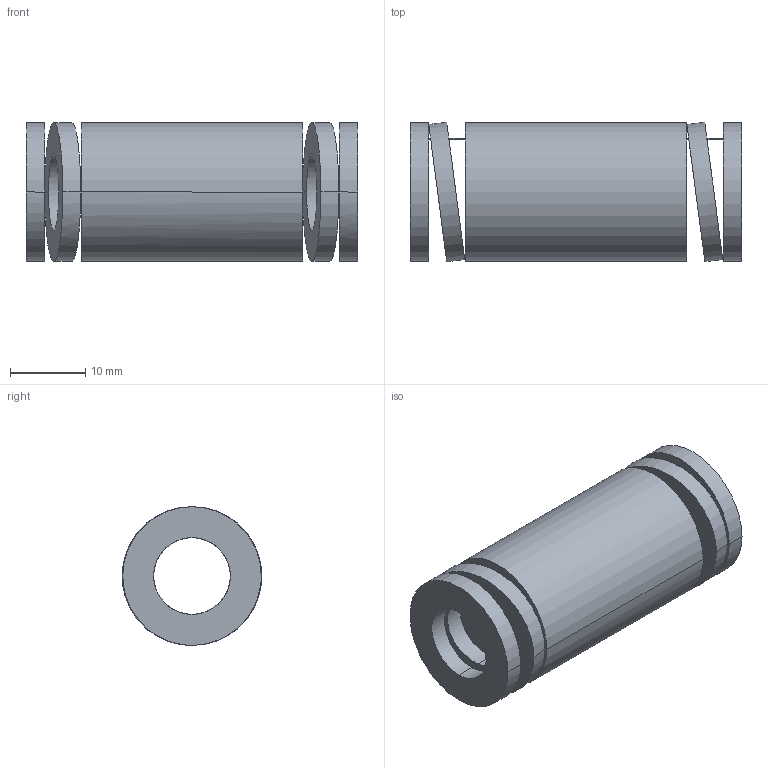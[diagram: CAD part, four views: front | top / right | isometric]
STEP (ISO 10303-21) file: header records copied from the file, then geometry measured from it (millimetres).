
FILE_DESCRIPTION(('CATIA V5 STEP Exchange'),'2;1');
FILE_NAME('C:\Users\Utente\Desktop\IO LAVORO\3D X SITO CF\X SITO\3D files 392B\392-B20-044.stp','2021-08-12T13:57:51+00:00',('none'),('none'),'CATIA Version 5 Release 20 GA (IN-10)','CATIA V5 STEP AP203','none');
FILE_SCHEMA(('CONFIG_CONTROL_DESIGN'));
Length unit declared in the file: millimetre
Products named in the file (1): 392-B20-044
Bounding box: 44 x 18.56 x 18.4 mm (x, y, z)
Volume: 7180.3 mm3; surface area: 5347.4 mm2
Topology: 1 solids, 1 shells, 38 faces, 92 edges, 64 vertices
Faces by surface type: cylinder 28, plane 10
Entity records: 1590 total; most frequent: CARTESIAN_POINT 707, ORIENTED_EDGE 184, DIRECTION 126, EDGE_CURVE 92, VERTEX_POINT 64, AXIS2_PLACEMENT_3D 61, EDGE_LOOP 56, B_SPLINE_CURVE_WITH_KNOTS 42
